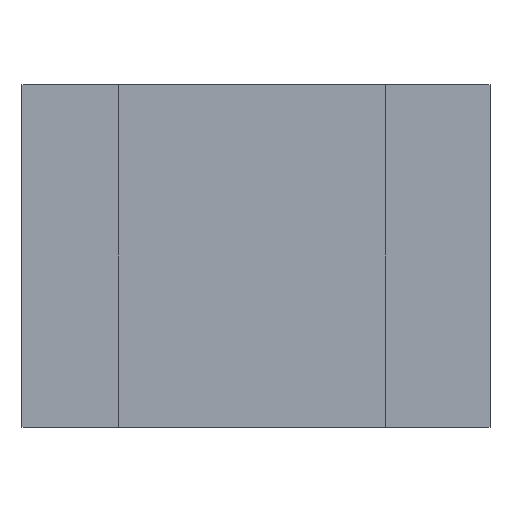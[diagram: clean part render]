
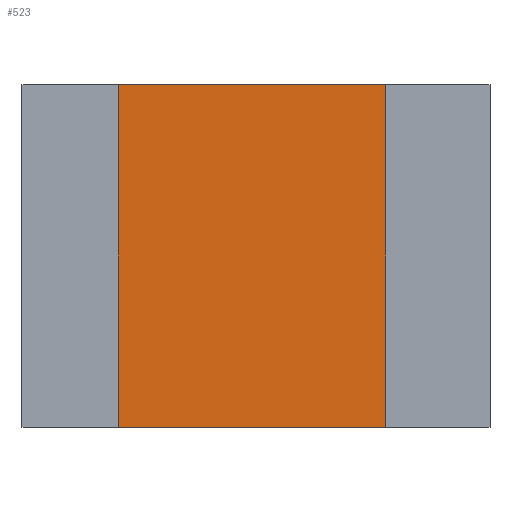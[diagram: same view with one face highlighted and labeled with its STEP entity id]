
A CAD part, front view. The second image highlights one B-rep face of the part: STEP entity #523.
In plain terms, the highlighted planar face has unit normal (0, -1, 0).
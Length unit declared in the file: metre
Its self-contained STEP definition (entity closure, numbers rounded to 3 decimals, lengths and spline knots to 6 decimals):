
#18=ORIENTED_EDGE('',*,*,#166,.F.);
#19=ORIENTED_EDGE('',*,*,#167,.T.);
#20=ORIENTED_EDGE('',*,*,#168,.T.);
#21=ORIENTED_EDGE('',*,*,#169,.F.);
#166=EDGE_CURVE('',#240,#241,#290,.T.);
#167=EDGE_CURVE('',#240,#242,#291,.T.);
#168=EDGE_CURVE('',#242,#243,#292,.T.);
#169=EDGE_CURVE('',#241,#243,#293,.T.);
#240=VERTEX_POINT('',#731);
#241=VERTEX_POINT('',#732);
#242=VERTEX_POINT('',#734);
#243=VERTEX_POINT('',#736);
#290=LINE('',#730,#360);
#291=LINE('',#733,#361);
#292=LINE('',#735,#362);
#293=LINE('',#737,#363);
#360=VECTOR('',#598,1.);
#361=VECTOR('',#599,1.);
#362=VECTOR('',#600,1.);
#363=VECTOR('',#601,1.);
#430=EDGE_LOOP('',(#18,#19,#20,#21));
#464=FACE_BOUND('',#430,.T.);
#498=PLANE('',#563);
#523=ADVANCED_FACE('',(#464),#498,.F.);
#563=AXIS2_PLACEMENT_3D('',#729,#596,#597);
#596=DIRECTION('',(0.,1.,0.));
#597=DIRECTION('',(0.,0.,1.));
#598=DIRECTION('',(0.,0.,1.));
#599=DIRECTION('',(1.,0.,0.));
#600=DIRECTION('',(0.,0.,1.));
#601=DIRECTION('',(1.,0.,0.));
#729=CARTESIAN_POINT('',(0.,-0.1,0.012));
#730=CARTESIAN_POINT('',(-0.052,-0.1,-0.052));
#731=CARTESIAN_POINT('',(-0.052,-0.1,-0.116));
#732=CARTESIAN_POINT('',(-0.052,-0.1,0.012));
#733=CARTESIAN_POINT('',(0.,-0.1,-0.116));
#734=CARTESIAN_POINT('',(0.048,-0.1,-0.116));
#735=CARTESIAN_POINT('',(0.048,-0.1,-0.052));
#736=CARTESIAN_POINT('',(0.048,-0.1,0.012));
#737=CARTESIAN_POINT('',(0.,-0.1,0.012));
